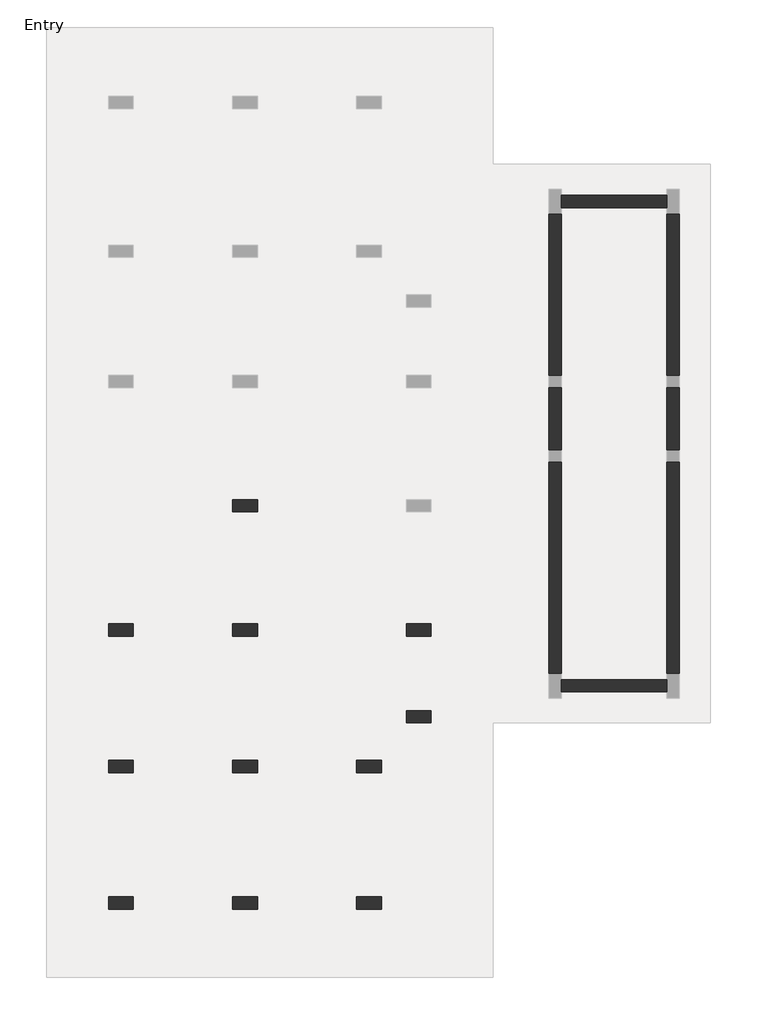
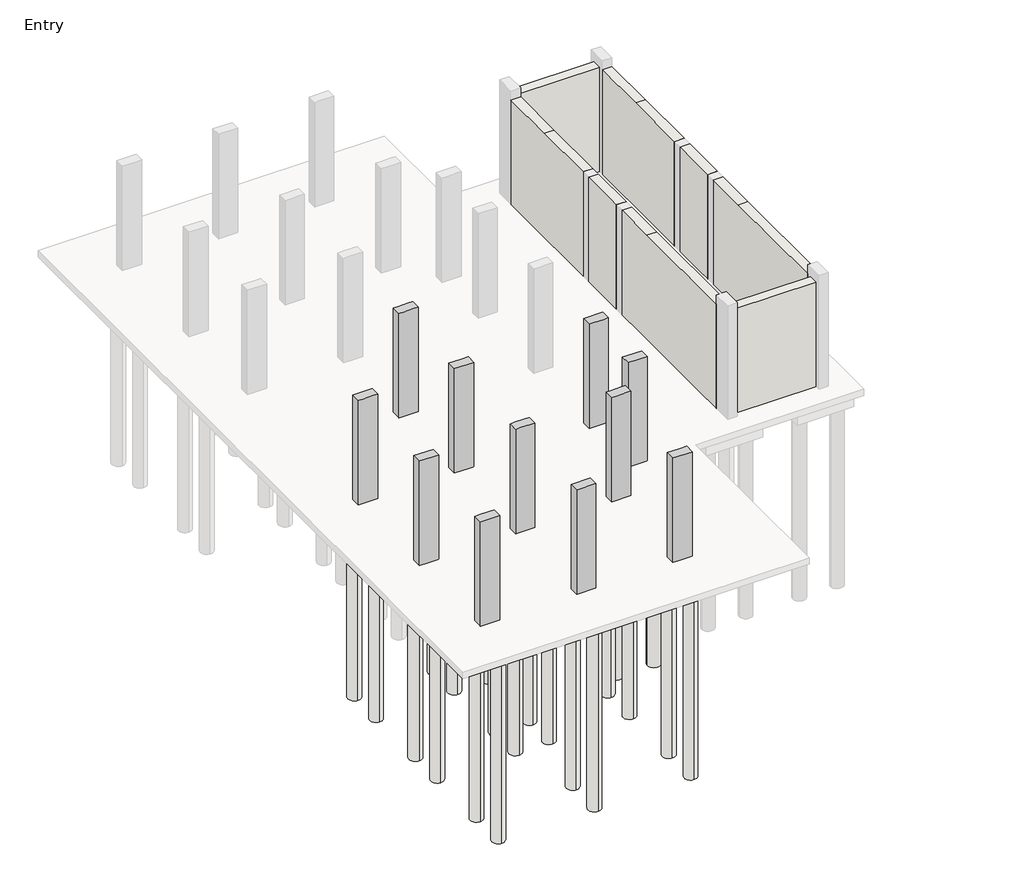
# One storey, part 1 of 3: 36 slabs, 11 columns, 8 walls.
"""IFC4 building model written with IfcOpenShell, lengths in millimetres."""

import ifcopenshell
import ifcopenshell.guid

model = None  # the IFC model being written
_history = None  # IfcOwnerHistory: only IFC2X3 demands one
_inside = {}  # id of a spatial element -> (the spatial element, [elements in it])
_under = {}  # id of a project, library or spatial element -> (it, [spatial elements below it])
_declared = {}  # id of a project -> (the project, [libraries it declares])
_typed = {}  # id of a type object -> (the type object, [elements of that type])
_made_of = {}  # id of a material, layer set ... -> (it, [elements and type objects made of it])


def new_model(schema):
    """Start an empty IFC model of exactly this schema.

    Asked for "IFC4X3", IfcOpenShell would pick the latest addendum, in which some entities
    have other attributes; the version numbers below select the first issue.
    IFC2X3 requires an IfcOwnerHistory on every rooted entity: one is made here for all.
    """
    global model, _history
    if schema == "IFC4X3":
        model = ifcopenshell.file(schema_version=(4, 3, 0, 0))
    else:
        model = ifcopenshell.file(schema=schema)
    _inside.clear()
    _under.clear()
    _declared.clear()
    _typed.clear()
    _made_of.clear()
    _history = None
    if model.schema == "IFC2X3":
        org = make("IfcOrganization", Name="unknown")
        user = make(
            "IfcPersonAndOrganization",
            ThePerson=make("IfcPerson", FamilyName="unknown"),
            TheOrganization=org,
        )
        app = make(
            "IfcApplication",
            ApplicationDeveloper=org,
            Version="unknown",
            ApplicationFullName="unknown",
            ApplicationIdentifier="unknown",
        )
        _history = make(
            "IfcOwnerHistory",
            OwningUser=user,
            OwningApplication=app,
            ChangeAction="ADDED",
            CreationDate=0,
        )
    return model


def make(cls, **values):
    """One entity of the class cls with the attributes given. An attribute that is None is left unset."""
    return model.create_entity(
        cls, **{name: value for name, value in values.items() if value is not None}
    )


def rooted(cls, **values):
    """An entity with a GlobalId (a new one), such as an element, a storey or a relation."""
    return make(cls, GlobalId=ifcopenshell.guid.new(), OwnerHistory=_history, **values)


def si_unit(unit_type, name, prefix=None):
    """IfcSIUnit, for example si_unit("LENGTHUNIT", "METRE", prefix="MILLI")."""
    return make("IfcSIUnit", UnitType=unit_type, Prefix=prefix, Name=name)


def assignment(units):
    """IfcUnitAssignment: the units of a project."""
    return None if units is None else make("IfcUnitAssignment", Units=units)


def point(xyz):
    """IfcCartesianPoint."""
    return None if xyz is None else make("IfcCartesianPoint", Coordinates=xyz)


def direction(xyz):
    """IfcDirection."""
    return None if xyz is None else make("IfcDirection", DirectionRatios=xyz)


def frame(location, z_axis=None, x_axis=None):
    """IfcAxis2Placement3D, a coordinate frame: its origin and axes. An axis left out is left unset."""
    return make(
        "IfcAxis2Placement3D",
        Location=point(location),
        Axis=direction(z_axis),
        RefDirection=direction(x_axis),
    )


def frame_2d(location, x_axis=None):
    """IfcAxis2Placement2D, a coordinate frame in the plane: its origin and x axis."""
    return make(
        "IfcAxis2Placement2D", Location=point(location), RefDirection=direction(x_axis)
    )


def origin():
    """The frame at (0, 0, 0) with its axes left unset."""
    return frame((0.0, 0.0, 0.0))


def origin_with_axes():
    """The frame at (0, 0, 0) with the z axis (0, 0, 1) and the x axis (1, 0, 0) written out."""
    return frame((0.0, 0.0, 0.0), z_axis=(0.0, 0.0, 1.0), x_axis=(1.0, 0.0, 0.0))


def place(relative_to, where):
    """IfcLocalPlacement: puts the frame where relative to a parent placement (None: the world)."""
    return make(
        "IfcLocalPlacement", PlacementRelTo=relative_to, RelativePlacement=where
    )


def context(
    kind, dimensions, precision=None, world=None, true_north=None, identifier=None
):
    """IfcGeometricRepresentationContext, for example the 3D "Model" context."""
    return make(
        "IfcGeometricRepresentationContext",
        ContextIdentifier=identifier,
        ContextType=kind,
        CoordinateSpaceDimension=dimensions,
        Precision=precision,
        WorldCoordinateSystem=world,
        TrueNorth=true_north,
    )


def project(units=None, contexts=None):
    """IfcProject with its units and contexts."""
    return rooted(
        "IfcProject",
        Name="project",
        RepresentationContexts=contexts,
        UnitsInContext=assignment(units),
    )


def spatial(cls, under=None, at=None, **own):
    """A site, building, storey or space (cls), placed at a placement, below another one or the project."""
    s = rooted(cls, ObjectPlacement=at, **own)
    if under is not None:
        _under.setdefault(under.id(), (under, []))[1].append(s)
    return s


def polyline(points):
    """IfcPolyline through the points."""
    return make("IfcPolyline", Points=[point(p) for p in points])


def circle_curve(where, radius):
    """IfcCircle in the frame where."""
    return make("IfcCircle", Position=where, Radius=radius)


def trimmed(basis, trim1, trim2, sense, master):
    """IfcTrimmedCurve: the piece of a basis curve between two trims."""
    return make(
        "IfcTrimmedCurve",
        BasisCurve=basis,
        Trim1=trim1,
        Trim2=trim2,
        SenseAgreement=sense,
        MasterRepresentation=master,
    )


def segment(curve, same_sense, transition):
    """IfcCompositeCurveSegment."""
    return make(
        "IfcCompositeCurveSegment",
        Transition=transition,
        SameSense=same_sense,
        ParentCurve=curve,
    )


def composite_curve(segments, self_intersect=None):
    """IfcCompositeCurve: segments joined end to end."""
    return make("IfcCompositeCurve", Segments=segments, SelfIntersect=self_intersect)


def outline(outer, holes=None, kind="AREA"):
    """IfcArbitraryClosedProfileDef: a profile drawn as a closed curve; with holes, ...WithVoids."""
    if holes is None:
        return make("IfcArbitraryClosedProfileDef", ProfileType=kind, OuterCurve=outer)
    return make(
        "IfcArbitraryProfileDefWithVoids",
        ProfileType=kind,
        OuterCurve=outer,
        InnerCurves=holes,
    )


def extrude(swept, where, along, depth):
    """IfcExtrudedAreaSolid: the profile swept, set in the frame where, extruded along a direction by depth."""
    return make(
        "IfcExtrudedAreaSolid",
        SweptArea=swept,
        Position=where,
        ExtrudedDirection=direction(along),
        Depth=depth,
    )


def faces_of(points, faces, orient=None, outer=None):
    """IfcFace entities. A face is a list of loops; a loop is a list of indices into points, from 0.

    orient and outer hold one flag for each loop. By default every Orientation is true, the
    first loop of a face is its IfcFaceOuterBound and the others are IfcFaceBound.
    """
    made = []
    for i, loops in enumerate(faces):
        bounds = []
        for j, loop in enumerate(loops):
            is_outer = j == 0 if outer is None else outer[i][j]
            bounds.append(
                make(
                    "IfcFaceOuterBound" if is_outer else "IfcFaceBound",
                    Bound=make("IfcPolyLoop", Polygon=[points[k] for k in loop]),
                    Orientation=True if orient is None else orient[i][j],
                )
            )
        made.append(make("IfcFace", Bounds=bounds))
    return made


def faceted_brep(points, faces, orient=None, outer=None, voids=None):
    """IfcFacetedBrep: a solid bounded by flat faces; with voids (closed shells), ...WithVoids."""
    shared = [point(p) for p in points]
    hull = make("IfcClosedShell", CfsFaces=faces_of(shared, faces, orient, outer))
    if voids is None:
        return make("IfcFacetedBrep", Outer=hull)
    return make(
        "IfcFacetedBrepWithVoids",
        Outer=hull,
        Voids=[
            make(cls, CfsFaces=faces_of(shared, fs, o, b)) for cls, fs, o, b in voids
        ],
    )


def shape(context_of_items, identifier, shape_type, items):
    """IfcShapeRepresentation: the items that make up one representation, for example the "Body"."""
    return make(
        "IfcShapeRepresentation",
        ContextOfItems=context_of_items,
        RepresentationIdentifier=identifier,
        RepresentationType=shape_type,
        Items=items,
    )


def made_of(thing, what):
    """Note that an element or type object is made of a material, layer set ...; save() writes the relation."""
    if what is not None:
        _made_of.setdefault(what.id(), (what, []))[1].append(thing)
    return thing


def element(
    cls,
    number,
    at=None,
    inside=None,
    cuts=None,
    type_object=None,
    material=None,
    context=None,
    identifier="Body",
    shape_type=None,
    held_by="IfcProductDefinitionShape",
    body=None,
    shapes=None,
    **own,
):
    """One element of the class cls, such as IfcWall. Its Tag is "e" and its number.

    at: its placement. inside: the storey or other place that contains it. cuts: it is an
    opening in that element (IfcRelVoidsElement). A single representation is given by context,
    identifier, shape_type and body (its items); several are given by shapes. held_by: the class
    of the entity that holds the representations. save() writes the other relations.
    """
    e = rooted(cls, Tag="e%d" % number, ObjectPlacement=at, **own)
    if body is not None:
        shapes = [shape(context, identifier, shape_type, body)]
    if shapes is not None:
        e.Representation = make(held_by, Representations=shapes)
    if inside is not None:
        _inside.setdefault(inside.id(), (inside, []))[1].append(e)
    if cuts is not None:
        rooted(
            "IfcRelVoidsElement", RelatingBuildingElement=cuts, RelatedOpeningElement=e
        )
    if type_object is not None:
        _typed.setdefault(type_object.id(), (type_object, []))[1].append(e)
    return made_of(e, material)


def aggregate(whole, parts):
    """IfcRelAggregates: a whole, such as a stair, and the parts it consists of."""
    return rooted("IfcRelAggregates", RelatingObject=whole, RelatedObjects=parts)


def save(model, path):
    """Write the relations noted so far, then the file.

    IfcRelAggregates (storeys below a building ...), IfcRelContainedInSpatialStructure (elements
    in a storey), IfcRelDefinesByType, IfcRelAssociatesMaterial and IfcRelDeclares: one each for
    every whole, place, type object, material and project.
    """
    for whole, parts in _under.values():
        aggregate(whole, parts)
    for where, things in _inside.values():
        rooted(
            "IfcRelContainedInSpatialStructure",
            RelatedElements=things,
            RelatingStructure=where,
        )
    for kind, things in _typed.values():
        rooted("IfcRelDefinesByType", RelatedObjects=things, RelatingType=kind)
    for what, things in _made_of.values():
        rooted("IfcRelAssociatesMaterial", RelatedObjects=things, RelatingMaterial=what)
    for by, libraries in _declared.values():
        rooted("IfcRelDeclares", RelatingContext=by, RelatedDefinitions=libraries)
    model.write(path)


model = new_model("IFC4")

# Units and contexts
model_context = context("Model", 3, world=origin())
ifc_project = project(units=[si_unit("LENGTHUNIT", "METRE", prefix="MILLI")], contexts=[model_context])

# Site, building, storey
site = spatial("IfcSite", under=ifc_project)
building = spatial("IfcBuilding", under=site)
storey = spatial("IfcBuildingStorey", under=building, Name="Entry", Elevation=0.0)

# Columns
placement = place(None, origin())
element("IfcColumn", 1, ObjectType="Concrete-Rectangular-Column : 12 x 24", at=placement, inside=storey, context=model_context, shape_type="Brep", body=[
    faceted_brep([(-12629.5554735, 4740.9867088, 0.0), (-12019.9554735, 4740.9867088, 0.0), (-12019.9554735, 4436.1867088, 0.0), (-12629.5554735, 4436.1867088, 0.0), (-12629.5554735, 4740.9867088, 3505.2), (-12477.1554735, 4740.9867088, 3505.2), (-12172.3554735, 4740.9867088, 3505.2), (-12019.9554735, 4740.9867088, 3505.2), (-12019.9554735, 4740.9867088, 2895.6), (-12019.9554735, 4436.1867088, 3505.2), (-12019.9554735, 4436.1867088, 2895.6), (-12172.3554735, 4436.1867088, 3505.2), (-12477.1554735, 4436.1867088, 3505.2), (-12629.5554735, 4436.1867088, 3505.2)], [[[0, 1, 2, 3]], [[4, 5, 6, 7, 8, 1, 0]], [[7, 9, 10, 2, 1, 8]], [[9, 11, 12, 13, 3, 2, 10]], [[13, 4, 0, 3]], [[4, 13, 12, 11, 9, 7, 6, 5]]]),
])
element("IfcColumn", 2, ObjectType="Concrete-Rectangular-Column : 12 x 24", at=placement, inside=storey, context=model_context, shape_type="Brep", body=[
    faceted_brep([(-12629.5554735, 1692.9867088, 0.0), (-12019.9554735, 1692.9867088, 0.0), (-12019.9554735, 1388.1867088, 0.0), (-12629.5554735, 1388.1867088, 0.0), (-12629.5554735, 1692.9867088, 3505.2), (-12477.1554735, 1692.9867088, 3505.2), (-12172.3554735, 1692.9867088, 3505.2), (-12019.9554735, 1692.9867088, 3505.2), (-12019.9554735, 1692.9867088, 2895.6), (-12629.5554735, 1692.9867088, 2895.6), (-12019.9554735, 1388.1867088, 3505.2), (-12019.9554735, 1388.1867088, 2895.6), (-12172.3554735, 1388.1867088, 3505.2), (-12477.1554735, 1388.1867088, 3505.2), (-12629.5554735, 1388.1867088, 3505.2), (-12629.5554735, 1388.1867088, 2895.6)], [[[0, 1, 2, 3]], [[4, 5, 6, 7, 8, 1, 0, 9]], [[7, 10, 11, 2, 1, 8]], [[10, 12, 13, 14, 15, 3, 2, 11]], [[14, 4, 9, 0, 3, 15]], [[4, 14, 13, 12, 10, 7, 6, 5]]]),
])
element("IfcColumn", 3, ObjectType="Concrete-Rectangular-Column : 12 x 24", at=placement, inside=storey, context=model_context, shape_type="Brep", body=[
    faceted_brep([(-12629.5554735, -1659.8132912, 0.0), (-12019.9554735, -1659.8132912, 0.0), (-12019.9554735, -1964.6132912, 0.0), (-12629.5554735, -1964.6132912, 0.0), (-12629.5554735, -1659.8132912, 3505.2), (-12477.1554735, -1659.8132912, 3505.2), (-12172.3554735, -1659.8132912, 3505.2), (-12019.9554735, -1659.8132912, 3505.2), (-12019.9554735, -1659.8132912, 2895.6), (-12629.5554735, -1659.8132912, 2895.6), (-12019.9554735, -1964.6132912, 3505.2), (-12019.9554735, -1964.6132912, 2895.6), (-12172.3554735, -1964.6132912, 3505.2), (-12477.1554735, -1964.6132912, 3505.2), (-12629.5554735, -1964.6132912, 3505.2), (-12629.5554735, -1964.6132912, 2895.6)], [[[0, 1, 2, 3]], [[4, 5, 6, 7, 8, 1, 0, 9]], [[7, 10, 11, 2, 1, 8]], [[10, 12, 13, 14, 15, 3, 2, 11]], [[14, 4, 9, 0, 3, 15]], [[4, 14, 13, 12, 10, 7, 6, 5]]]),
])
element("IfcColumn", 4, ObjectType="Concrete-Rectangular-Column : 12 x 24", at=placement, inside=storey, context=model_context, shape_type="Brep", body=[
    faceted_brep([(-12629.5554735, -5012.6132912, 0.0), (-12019.9554735, -5012.6132912, 0.0), (-12019.9554735, -5317.4132912, 0.0), (-12629.5554735, -5317.4132912, 0.0), (-12629.5554735, -5012.6132912, 3505.2), (-12477.1554735, -5012.6132912, 3505.2), (-12172.3554735, -5012.6132912, 3505.2), (-12019.9554735, -5012.6132912, 3505.2), (-12019.9554735, -5012.6132912, 2895.6), (-12629.5554735, -5012.6132912, 2895.6), (-12019.9554735, -5317.4132912, 3505.2), (-12019.9554735, -5317.4132912, 2895.6), (-12629.5554735, -5317.4132912, 3505.2), (-12629.5554735, -5317.4132912, 2895.6)], [[[0, 1, 2, 3]], [[4, 5, 6, 7, 8, 1, 0, 9]], [[7, 10, 11, 2, 1, 8]], [[10, 12, 13, 3, 2, 11]], [[12, 4, 9, 0, 3, 13]], [[4, 12, 10, 7, 6, 5]]]),
])
element("IfcColumn", 5, ObjectType="Concrete-Rectangular-Column : 12 x 24", at=placement, inside=storey, context=model_context, shape_type="Brep", body=[
    faceted_brep([(-15677.5554735, -1659.8132912, 0.0), (-15067.9554735, -1659.8132912, 0.0), (-15067.9554735, -1964.6132912, 0.0), (-15677.5554735, -1964.6132912, 0.0), (-15677.5554735, -1659.8132912, 3505.2), (-15525.1554735, -1659.8132912, 3505.2), (-15220.3554735, -1659.8132912, 3505.2), (-15067.9554735, -1659.8132912, 3505.2), (-15067.9554735, -1659.8132912, 2895.6), (-15067.9554735, -1964.6132912, 3505.2), (-15067.9554735, -1964.6132912, 2895.6), (-15220.3554735, -1964.6132912, 3505.2), (-15525.1554735, -1964.6132912, 3505.2), (-15677.5554735, -1964.6132912, 3505.2)], [[[0, 1, 2, 3]], [[4, 5, 6, 7, 8, 1, 0]], [[7, 9, 10, 2, 1, 8]], [[9, 11, 12, 13, 3, 2, 10]], [[13, 4, 0, 3]], [[4, 13, 12, 11, 9, 7, 6, 5]]]),
])
element("IfcColumn", 6, ObjectType="Concrete-Rectangular-Column : 12 x 24", at=placement, inside=storey, context=model_context, shape_type="Brep", body=[
    faceted_brep([(-15677.5554735, -5012.6132912, 0.0), (-15067.9554735, -5012.6132912, 0.0), (-15067.9554735, -5317.4132912, 0.0), (-15677.5554735, -5317.4132912, 0.0), (-15677.5554735, -5012.6132912, 3505.2), (-15525.1554735, -5012.6132912, 3505.2), (-15220.3554735, -5012.6132912, 3505.2), (-15067.9554735, -5012.6132912, 3505.2), (-15067.9554735, -5012.6132912, 2895.6), (-15067.9554735, -5317.4132912, 3505.2), (-15067.9554735, -5317.4132912, 2895.6), (-15677.5554735, -5317.4132912, 3505.2)], [[[0, 1, 2, 3]], [[4, 5, 6, 7, 8, 1, 0]], [[7, 9, 10, 2, 1, 8]], [[9, 11, 3, 2, 10]], [[11, 4, 0, 3]], [[4, 11, 9, 7, 6, 5]]]),
])
element("IfcColumn", 7, ObjectType="Concrete-Rectangular-Column : 12 x 24", at=placement, inside=storey, context=model_context, shape_type="Brep", body=[
    faceted_brep([(-15677.5554735, 1692.9867088, 0.0), (-15067.9554735, 1692.9867088, 0.0), (-15067.9554735, 1388.1867088, 0.0), (-15677.5554735, 1388.1867088, 0.0), (-15677.5554735, 1692.9867088, 3505.2), (-15067.9554735, 1692.9867088, 3505.2), (-15067.9554735, 1692.9867088, 2895.6), (-15067.9554735, 1388.1867088, 3505.2), (-15067.9554735, 1388.1867088, 2895.6), (-15220.3554735, 1388.1867088, 3505.2), (-15525.1554735, 1388.1867088, 3505.2), (-15677.5554735, 1388.1867088, 3505.2)], [[[0, 1, 2, 3]], [[4, 5, 6, 1, 0]], [[5, 7, 8, 2, 1, 6]], [[7, 9, 10, 11, 3, 2, 8]], [[11, 4, 0, 3]], [[4, 11, 10, 9, 7, 5]]]),
])
element("IfcColumn", 8, ObjectType="Concrete-Rectangular-Column : 12 x 24", at=placement, inside=storey, context=model_context, shape_type="Brep", body=[
    faceted_brep([(-8362.3554735, 1692.9867088, 0.0), (-7752.7554735, 1692.9867088, 0.0), (-7752.7554735, 1388.1867088, 0.0), (-8362.3554735, 1388.1867088, 0.0), (-8362.3554735, 1692.9867088, 3505.2), (-8209.9554735, 1692.9867088, 3505.2), (-7905.1554735, 1692.9867088, 3505.2), (-7752.7554735, 1692.9867088, 3505.2), (-8362.3554735, 1692.9867088, 2895.6), (-7752.7554735, 1388.1867088, 3505.2), (-7905.1554735, 1388.1867088, 3505.2), (-8209.9554735, 1388.1867088, 3505.2), (-8362.3554735, 1388.1867088, 3505.2), (-8362.3554735, 1388.1867088, 2895.6)], [[[0, 1, 2, 3]], [[4, 5, 6, 7, 1, 0, 8]], [[7, 9, 2, 1]], [[9, 10, 11, 12, 13, 3, 2]], [[12, 4, 8, 0, 3, 13]], [[4, 12, 11, 10, 9, 7, 6, 5]]]),
])
element("IfcColumn", 9, ObjectType="Concrete-Rectangular-Column : 12 x 24", at=placement, inside=storey, context=model_context, shape_type="Brep", body=[
    faceted_brep([(-9581.5554735, -1659.8132912, 0.0), (-8971.9554735, -1659.8132912, 0.0), (-8971.9554735, -1964.6132912, 0.0), (-9581.5554735, -1964.6132912, 0.0), (-9581.5554735, -1659.8132912, 3505.2), (-9429.1554735, -1659.8132912, 3505.2), (-9124.3554735, -1659.8132912, 3505.2), (-8971.9554735, -1659.8132912, 3505.2), (-9581.5554735, -1659.8132912, 2895.6), (-8971.9554735, -1964.6132912, 3505.2), (-9124.3554735, -1964.6132912, 3505.2), (-9429.1554735, -1964.6132912, 3505.2), (-9581.5554735, -1964.6132912, 3505.2), (-9581.5554735, -1964.6132912, 2895.6)], [[[0, 1, 2, 3]], [[4, 5, 6, 7, 1, 0, 8]], [[7, 9, 2, 1]], [[9, 10, 11, 12, 13, 3, 2]], [[12, 4, 8, 0, 3, 13]], [[4, 12, 11, 10, 9, 7, 6, 5]]]),
])
element("IfcColumn", 10, ObjectType="Concrete-Rectangular-Column : 12 x 24", at=placement, inside=storey, context=model_context, shape_type="Brep", body=[
    faceted_brep([(-9581.5554735, -5012.6132912, 0.0), (-8971.9554735, -5012.6132912, 0.0), (-8971.9554735, -5317.4132912, 0.0), (-9581.5554735, -5317.4132912, 0.0), (-9581.5554735, -5012.6132912, 3505.2), (-9429.1554735, -5012.6132912, 3505.2), (-9124.3554735, -5012.6132912, 3505.2), (-8971.9554735, -5012.6132912, 3505.2), (-9581.5554735, -5012.6132912, 2895.6), (-8971.9554735, -5317.4132912, 3505.2), (-9581.5554735, -5317.4132912, 3505.2), (-9581.5554735, -5317.4132912, 2895.6)], [[[0, 1, 2, 3]], [[4, 5, 6, 7, 1, 0, 8]], [[7, 9, 2, 1]], [[9, 10, 11, 3, 2]], [[10, 4, 8, 0, 3, 11]], [[4, 10, 9, 7, 6, 5]]]),
])
element("IfcColumn", 11, ObjectType="Concrete-Rectangular-Column : 12 x 24", at=placement, inside=storey, context=model_context, shape_type="Brep", body=[
    faceted_brep([(-8362.3554735, -440.6132912, 0.0), (-7752.7554735, -440.6132912, 0.0), (-7752.7554735, -745.4132912, 0.0), (-8362.3554735, -745.4132912, 0.0), (-8362.3554735, -440.6132912, 3505.2), (-8209.9554735, -440.6132912, 3505.2), (-7905.1554735, -440.6132912, 3505.2), (-7752.7554735, -440.6132912, 3505.2), (-8362.3554735, -440.6132912, 2895.6), (-7752.7554735, -745.4132912, 3505.2), (-8362.3554735, -745.4132912, 3505.2), (-8362.3554735, -745.4132912, 2895.6)], [[[0, 1, 2, 3]], [[4, 5, 6, 7, 1, 0, 8]], [[7, 9, 2, 1]], [[9, 10, 11, 3, 2]], [[10, 4, 8, 0, 3, 11]], [[4, 10, 9, 7, 6, 5]]]),
])

# Slabs
element("IfcSlab", 12, ObjectType="Pile Cap-2 Pile : 31\"x61\"x35\"", at=placement, inside=storey, context=model_context, shape_type="SweptSolid", body=[
    extrude(outline(polyline([(-15779.1554735, 2442.2867088), (-14966.3554735, 2442.2867088), (-14966.3554735, 638.8867088), (-15779.1554735, 638.8867088), (-15779.1554735, 2442.2867088)])), frame((0.0, 0.0, -889.0), z_axis=(0.0, 0.0, 1.0), x_axis=(1.0, 0.0, 0.0)), (0.0, 0.0, 1.0), 685.8),
])
element("IfcSlab", 13, ObjectType="Pile Cap-2 Pile : 31\"x61\"x35\"", at=placement, inside=storey, context=model_context, shape_type="SweptSolid", body=[
    extrude(outline(polyline([(-15779.1554735, -910.5132912), (-14966.3554735, -910.5132912), (-14966.3554735, -2713.9132912), (-15779.1554735, -2713.9132912), (-15779.1554735, -910.5132912)])), frame((0.0, 0.0, -889.0), z_axis=(0.0, 0.0, 1.0), x_axis=(1.0, 0.0, 0.0)), (0.0, 0.0, 1.0), 685.8),
])
element("IfcSlab", 14, ObjectType="Pile Cap-2 Pile : 31\"x61\"x35\"", at=placement, inside=storey, context=model_context, shape_type="SweptSolid", body=[
    extrude(outline(polyline([(-15779.1554735, -4263.3132912), (-14966.3554735, -4263.3132912), (-14966.3554735, -6066.7132912), (-15779.1554735, -6066.7132912), (-15779.1554735, -4263.3132912)])), frame((0.0, 0.0, -889.0), z_axis=(0.0, 0.0, 1.0), x_axis=(1.0, 0.0, 0.0)), (0.0, 0.0, 1.0), 685.8),
])
element("IfcSlab", 15, ObjectType="Pile Cap-2 Pile : 31\"x61\"x35\"", at=placement, inside=storey, context=model_context, shape_type="SweptSolid", body=[
    extrude(outline(polyline([(-12731.1554735, -4263.3132912), (-11918.3554735, -4263.3132912), (-11918.3554735, -6066.7132912), (-12731.1554735, -6066.7132912), (-12731.1554735, -4263.3132912)])), frame((0.0, 0.0, -889.0), z_axis=(0.0, 0.0, 1.0), x_axis=(1.0, 0.0, 0.0)), (0.0, 0.0, 1.0), 685.8),
])
element("IfcSlab", 16, ObjectType="Pile Cap-2 Pile : 31\"x61\"x35\"", at=placement, inside=storey, context=model_context, shape_type="SweptSolid", body=[
    extrude(outline(polyline([(-9683.1554735, -4263.3132912), (-8870.3554735, -4263.3132912), (-8870.3554735, -6066.7132912), (-9683.1554735, -6066.7132912), (-9683.1554735, -4263.3132912)])), frame((0.0, 0.0, -889.0), z_axis=(0.0, 0.0, 1.0), x_axis=(1.0, 0.0, 0.0)), (0.0, 0.0, 1.0), 685.8),
])
element("IfcSlab", 17, ObjectType="Pile Cap-2 Pile : 31\"x61\"x35\"", at=placement, inside=storey, context=model_context, shape_type="Brep", body=[
    faceted_brep([(-9683.1554735, -910.5132912, -889.0), (-8959.2554735, -910.5132912, -889.0), (-8870.3554735, -910.5132912, -889.0), (-8870.3554735, -999.4132912, -889.0), (-8870.3554735, -2713.9132912, -889.0), (-9683.1554735, -2713.9132912, -889.0), (-9683.1554735, -2713.9132912, -203.2), (-9683.1554735, -910.5132912, -203.2), (-8870.3554735, -2713.9132912, -203.2), (-8870.3554735, -910.5132912, -203.2), (-8870.3554735, -999.4132912, -203.2), (-8959.2554735, -910.5132912, -203.2)], [[[0, 1, 2, 3, 4, 5]], [[0, 5, 6, 7]], [[5, 4, 8, 6]], [[4, 3, 2, 9, 10, 8]], [[2, 1, 0, 7, 11, 9]], [[7, 6, 8, 10, 9, 11]]]),
])
element("IfcSlab", 18, ObjectType="Pile Cap-2 Pile : 31\"x61\"x35\"", at=placement, inside=storey, context=model_context, shape_type="SweptSolid", body=[
    extrude(outline(polyline([(-8463.9554735, 2442.2867088), (-7651.1554735, 2442.2867088), (-7651.1554735, 638.8867088), (-8463.9554735, 638.8867088), (-8463.9554735, 2442.2867088)])), frame((0.0, 0.0, -889.0), z_axis=(0.0, 0.0, 1.0), x_axis=(1.0, 0.0, 0.0)), (0.0, 0.0, 1.0), 685.8),
])
element("IfcSlab", 19, ObjectType="Pile Cap-2 Pile : 31\"x61\"x35\"", at=placement, inside=storey, context=model_context, shape_type="SweptSolid", body=[
    extrude(outline(polyline([(-7155.8554735, -186.6132912), (-7155.8554735, -999.4132912), (-8870.3554735, -999.4132912), (-8870.3554735, -910.5132912), (-8959.2554735, -910.5132912), (-8959.2554735, -186.6132912), (-7155.8554735, -186.6132912)])), frame((0.0, 0.0, -889.0), z_axis=(0.0, 0.0, 1.0), x_axis=(1.0, 0.0, 0.0)), (0.0, 0.0, 1.0), 685.8),
])
element("IfcSlab", 20, ObjectType="Pile Cap-4 Pile : 72\"x72\"x35\"", at=placement, inside=storey, context=model_context, shape_type="SweptSolid", body=[
    extrude(outline(polyline([(-13239.1554735, 5502.9867088), (-11410.3554735, 5502.9867088), (-11410.3554735, 3674.1867088), (-13239.1554735, 3674.1867088), (-13239.1554735, 5502.9867088)])), frame((0.0, 0.0, -889.0), z_axis=(0.0, 0.0, 1.0), x_axis=(1.0, 0.0, 0.0)), (0.0, 0.0, 1.0), 685.8),
])
element("IfcSlab", 21, ObjectType="Pile Cap-4 Pile : 72\"x72\"x35\"", at=placement, inside=storey, context=model_context, shape_type="SweptSolid", body=[
    extrude(outline(polyline([(-13239.1554735, 2454.9867088), (-11410.3554735, 2454.9867088), (-11410.3554735, 626.1867088), (-13239.1554735, 626.1867088), (-13239.1554735, 2454.9867088)])), frame((0.0, 0.0, -889.0), z_axis=(0.0, 0.0, 1.0), x_axis=(1.0, 0.0, 0.0)), (0.0, 0.0, 1.0), 685.8),
])
element("IfcSlab", 22, ObjectType="Pile Cap-4 Pile : 72\"x72\"x35\"", at=placement, inside=storey, context=model_context, shape_type="SweptSolid", body=[
    extrude(outline(polyline([(-13239.1554735, -897.8132912), (-11410.3554735, -897.8132912), (-11410.3554735, -2726.6132912), (-13239.1554735, -2726.6132912), (-13239.1554735, -897.8132912)])), frame((0.0, 0.0, -889.0), z_axis=(0.0, 0.0, 1.0), x_axis=(1.0, 0.0, 0.0)), (0.0, 0.0, 1.0), 685.8),
])
element("IfcSlab", 23, ObjectType="Pile-Steel Pipe : 16\" Diameter", at=placement, inside=storey, context=model_context, shape_type="SweptSolid", body=[
    extrude(outline(composite_curve([segment(trimmed(circle_curve(frame_2d((-12858.1554735, 1007.1867088)), 203.2), [point((-12858.1554735, 803.9867088))], [point((-12858.1554735, 1210.3867088))], False, "CARTESIAN"), True, "CONTINUOUS"), segment(trimmed(circle_curve(frame_2d((-12858.1554735, 1007.1867088)), 203.2), [point((-12858.1554735, 1210.3867088))], [point((-12858.1554735, 803.9867088))], False, "CARTESIAN"), True, "CONTINUOUS")], self_intersect=False)), frame((0.0, 0.0, -6985.0), z_axis=(0.0, 0.0, 1.0), x_axis=(1.0, 0.0, 0.0)), (0.0, 0.0, 1.0), 6096.0),
])
element("IfcSlab", 24, ObjectType="Pile-Steel Pipe : 16\" Diameter", at=placement, inside=storey, context=model_context, shape_type="SweptSolid", body=[
    extrude(outline(composite_curve([segment(trimmed(circle_curve(frame_2d((-11791.3554735, 1007.1867088)), 203.2), [point((-11791.3554735, 803.9867088))], [point((-11791.3554735, 1210.3867088))], False, "CARTESIAN"), True, "CONTINUOUS"), segment(trimmed(circle_curve(frame_2d((-11791.3554735, 1007.1867088)), 203.2), [point((-11791.3554735, 1210.3867088))], [point((-11791.3554735, 803.9867088))], False, "CARTESIAN"), True, "CONTINUOUS")], self_intersect=False)), frame((0.0, 0.0, -6985.0), z_axis=(0.0, 0.0, 1.0), x_axis=(1.0, 0.0, 0.0)), (0.0, 0.0, 1.0), 6096.0),
])
element("IfcSlab", 25, ObjectType="Pile-Steel Pipe : 16\" Diameter", at=placement, inside=storey, context=model_context, shape_type="SweptSolid", body=[
    extrude(outline(composite_curve([segment(trimmed(circle_curve(frame_2d((-11791.3554735, 2073.9867088)), 203.2), [point((-11791.3554735, 1870.7867088))], [point((-11791.3554735, 2277.1867088))], False, "CARTESIAN"), True, "CONTINUOUS"), segment(trimmed(circle_curve(frame_2d((-11791.3554735, 2073.9867088)), 203.2), [point((-11791.3554735, 2277.1867088))], [point((-11791.3554735, 1870.7867088))], False, "CARTESIAN"), True, "CONTINUOUS")], self_intersect=False)), frame((0.0, 0.0, -6985.0), z_axis=(0.0, 0.0, 1.0), x_axis=(1.0, 0.0, 0.0)), (0.0, 0.0, 1.0), 6096.0),
])
element("IfcSlab", 26, ObjectType="Pile-Steel Pipe : 16\" Diameter", at=placement, inside=storey, context=model_context, shape_type="SweptSolid", body=[
    extrude(outline(composite_curve([segment(trimmed(circle_curve(frame_2d((-12858.1554735, 2073.9867088)), 203.2), [point((-12858.1554735, 1870.7867088))], [point((-12858.1554735, 2277.1867088))], False, "CARTESIAN"), True, "CONTINUOUS"), segment(trimmed(circle_curve(frame_2d((-12858.1554735, 2073.9867088)), 203.2), [point((-12858.1554735, 2277.1867088))], [point((-12858.1554735, 1870.7867088))], False, "CARTESIAN"), True, "CONTINUOUS")], self_intersect=False)), frame((0.0, 0.0, -6985.0), z_axis=(0.0, 0.0, 1.0), x_axis=(1.0, 0.0, 0.0)), (0.0, 0.0, 1.0), 6096.0),
])
element("IfcSlab", 27, ObjectType="Pile-Steel Pipe : 16\" Diameter", at=placement, inside=storey, context=model_context, shape_type="SweptSolid", body=[
    extrude(outline(composite_curve([segment(trimmed(circle_curve(frame_2d((-12858.1554735, -2345.6132912)), 203.2), [point((-12858.1554735, -2548.8132912))], [point((-12858.1554735, -2142.4132912))], False, "CARTESIAN"), True, "CONTINUOUS"), segment(trimmed(circle_curve(frame_2d((-12858.1554735, -2345.6132912)), 203.2), [point((-12858.1554735, -2142.4132912))], [point((-12858.1554735, -2548.8132912))], False, "CARTESIAN"), True, "CONTINUOUS")], self_intersect=False)), frame((0.0, 0.0, -6985.0), z_axis=(0.0, 0.0, 1.0), x_axis=(1.0, 0.0, 0.0)), (0.0, 0.0, 1.0), 6096.0),
])
element("IfcSlab", 28, ObjectType="Pile-Steel Pipe : 16\" Diameter", at=placement, inside=storey, context=model_context, shape_type="SweptSolid", body=[
    extrude(outline(composite_curve([segment(trimmed(circle_curve(frame_2d((-11791.3554735, -2345.6132912)), 203.2), [point((-11791.3554735, -2548.8132912))], [point((-11791.3554735, -2142.4132912))], False, "CARTESIAN"), True, "CONTINUOUS"), segment(trimmed(circle_curve(frame_2d((-11791.3554735, -2345.6132912)), 203.2), [point((-11791.3554735, -2142.4132912))], [point((-11791.3554735, -2548.8132912))], False, "CARTESIAN"), True, "CONTINUOUS")], self_intersect=False)), frame((0.0, 0.0, -6985.0), z_axis=(0.0, 0.0, 1.0), x_axis=(1.0, 0.0, 0.0)), (0.0, 0.0, 1.0), 6096.0),
])
element("IfcSlab", 29, ObjectType="Pile-Steel Pipe : 16\" Diameter", at=placement, inside=storey, context=model_context, shape_type="SweptSolid", body=[
    extrude(outline(composite_curve([segment(trimmed(circle_curve(frame_2d((-11791.3554735, -1278.8132912)), 203.2), [point((-11791.3554735, -1482.0132912))], [point((-11791.3554735, -1075.6132912))], False, "CARTESIAN"), True, "CONTINUOUS"), segment(trimmed(circle_curve(frame_2d((-11791.3554735, -1278.8132912)), 203.2), [point((-11791.3554735, -1075.6132912))], [point((-11791.3554735, -1482.0132912))], False, "CARTESIAN"), True, "CONTINUOUS")], self_intersect=False)), frame((0.0, 0.0, -6985.0), z_axis=(0.0, 0.0, 1.0), x_axis=(1.0, 0.0, 0.0)), (0.0, 0.0, 1.0), 6096.0),
])
element("IfcSlab", 30, ObjectType="Pile-Steel Pipe : 16\" Diameter", at=placement, inside=storey, context=model_context, shape_type="SweptSolid", body=[
    extrude(outline(composite_curve([segment(trimmed(circle_curve(frame_2d((-12858.1554735, -1278.8132912)), 203.2), [point((-12858.1554735, -1482.0132912))], [point((-12858.1554735, -1075.6132912))], False, "CARTESIAN"), True, "CONTINUOUS"), segment(trimmed(circle_curve(frame_2d((-12858.1554735, -1278.8132912)), 203.2), [point((-12858.1554735, -1075.6132912))], [point((-12858.1554735, -1482.0132912))], False, "CARTESIAN"), True, "CONTINUOUS")], self_intersect=False)), frame((0.0, 0.0, -6985.0), z_axis=(0.0, 0.0, 1.0), x_axis=(1.0, 0.0, 0.0)), (0.0, 0.0, 1.0), 6096.0),
])
element("IfcSlab", 31, ObjectType="Pile-Steel Pipe : 16\" Diameter", at=placement, inside=storey, context=model_context, shape_type="SweptSolid", body=[
    extrude(outline(composite_curve([segment(trimmed(circle_curve(frame_2d((-15372.7554735, 2137.4867088)), 203.2), [point((-15372.7554735, 1934.2867088))], [point((-15372.7554735, 2340.6867088))], False, "CARTESIAN"), True, "CONTINUOUS"), segment(trimmed(circle_curve(frame_2d((-15372.7554735, 2137.4867088)), 203.2), [point((-15372.7554735, 2340.6867088))], [point((-15372.7554735, 1934.2867088))], False, "CARTESIAN"), True, "CONTINUOUS")], self_intersect=False)), frame((0.0, 0.0, -6985.0), z_axis=(0.0, 0.0, 1.0), x_axis=(1.0, 0.0, 0.0)), (0.0, 0.0, 1.0), 6096.0),
])
element("IfcSlab", 32, ObjectType="Pile-Steel Pipe : 16\" Diameter", at=placement, inside=storey, context=model_context, shape_type="SweptSolid", body=[
    extrude(outline(composite_curve([segment(trimmed(circle_curve(frame_2d((-15372.7554735, 943.6867088)), 203.2), [point((-15372.7554735, 740.4867088))], [point((-15372.7554735, 1146.8867088))], False, "CARTESIAN"), True, "CONTINUOUS"), segment(trimmed(circle_curve(frame_2d((-15372.7554735, 943.6867088)), 203.2), [point((-15372.7554735, 1146.8867088))], [point((-15372.7554735, 740.4867088))], False, "CARTESIAN"), True, "CONTINUOUS")], self_intersect=False)), frame((0.0, 0.0, -6985.0), z_axis=(0.0, 0.0, 1.0), x_axis=(1.0, 0.0, 0.0)), (0.0, 0.0, 1.0), 6096.0),
])
element("IfcSlab", 33, ObjectType="Pile-Steel Pipe : 16\" Diameter", at=placement, inside=storey, context=model_context, shape_type="SweptSolid", body=[
    extrude(outline(composite_curve([segment(trimmed(circle_curve(frame_2d((-15372.7554735, -1215.3132912)), 203.2), [point((-15372.7554735, -1418.5132912))], [point((-15372.7554735, -1012.1132912))], False, "CARTESIAN"), True, "CONTINUOUS"), segment(trimmed(circle_curve(frame_2d((-15372.7554735, -1215.3132912)), 203.2), [point((-15372.7554735, -1012.1132912))], [point((-15372.7554735, -1418.5132912))], False, "CARTESIAN"), True, "CONTINUOUS")], self_intersect=False)), frame((0.0, 0.0, -6985.0), z_axis=(0.0, 0.0, 1.0), x_axis=(1.0, 0.0, 0.0)), (0.0, 0.0, 1.0), 6096.0),
])
element("IfcSlab", 34, ObjectType="Pile-Steel Pipe : 16\" Diameter", at=placement, inside=storey, context=model_context, shape_type="SweptSolid", body=[
    extrude(outline(composite_curve([segment(trimmed(circle_curve(frame_2d((-15372.7554735, -2409.1132912)), 203.2), [point((-15372.7554735, -2612.3132912))], [point((-15372.7554735, -2205.9132912))], False, "CARTESIAN"), True, "CONTINUOUS"), segment(trimmed(circle_curve(frame_2d((-15372.7554735, -2409.1132912)), 203.2), [point((-15372.7554735, -2205.9132912))], [point((-15372.7554735, -2612.3132912))], False, "CARTESIAN"), True, "CONTINUOUS")], self_intersect=False)), frame((0.0, 0.0, -6985.0), z_axis=(0.0, 0.0, 1.0), x_axis=(1.0, 0.0, 0.0)), (0.0, 0.0, 1.0), 6096.0),
])
element("IfcSlab", 35, ObjectType="Pile-Steel Pipe : 16\" Diameter", at=placement, inside=storey, context=model_context, shape_type="SweptSolid", body=[
    extrude(outline(composite_curve([segment(trimmed(circle_curve(frame_2d((-15372.7554735, -4568.1132912)), 203.2), [point((-15372.7554735, -4771.3132912))], [point((-15372.7554735, -4364.9132912))], False, "CARTESIAN"), True, "CONTINUOUS"), segment(trimmed(circle_curve(frame_2d((-15372.7554735, -4568.1132912)), 203.2), [point((-15372.7554735, -4364.9132912))], [point((-15372.7554735, -4771.3132912))], False, "CARTESIAN"), True, "CONTINUOUS")], self_intersect=False)), frame((0.0, 0.0, -6985.0), z_axis=(0.0, 0.0, 1.0), x_axis=(1.0, 0.0, 0.0)), (0.0, 0.0, 1.0), 6096.0),
])
element("IfcSlab", 36, ObjectType="Pile-Steel Pipe : 16\" Diameter", at=placement, inside=storey, context=model_context, shape_type="SweptSolid", body=[
    extrude(outline(composite_curve([segment(trimmed(circle_curve(frame_2d((-15372.7554735, -5761.9132912)), 203.2), [point((-15372.7554735, -5965.1132912))], [point((-15372.7554735, -5558.7132912))], False, "CARTESIAN"), True, "CONTINUOUS"), segment(trimmed(circle_curve(frame_2d((-15372.7554735, -5761.9132912)), 203.2), [point((-15372.7554735, -5558.7132912))], [point((-15372.7554735, -5965.1132912))], False, "CARTESIAN"), True, "CONTINUOUS")], self_intersect=False)), frame((0.0, 0.0, -6985.0), z_axis=(0.0, 0.0, 1.0), x_axis=(1.0, 0.0, 0.0)), (0.0, 0.0, 1.0), 6096.0),
])
element("IfcSlab", 37, ObjectType="Pile-Steel Pipe : 16\" Diameter", at=placement, inside=storey, context=model_context, shape_type="SweptSolid", body=[
    extrude(outline(composite_curve([segment(trimmed(circle_curve(frame_2d((-12324.7554735, -4568.1132912)), 203.2), [point((-12324.7554735, -4771.3132912))], [point((-12324.7554735, -4364.9132912))], False, "CARTESIAN"), True, "CONTINUOUS"), segment(trimmed(circle_curve(frame_2d((-12324.7554735, -4568.1132912)), 203.2), [point((-12324.7554735, -4364.9132912))], [point((-12324.7554735, -4771.3132912))], False, "CARTESIAN"), True, "CONTINUOUS")], self_intersect=False)), frame((0.0, 0.0, -6985.0), z_axis=(0.0, 0.0, 1.0), x_axis=(1.0, 0.0, 0.0)), (0.0, 0.0, 1.0), 6096.0),
])
element("IfcSlab", 38, ObjectType="Pile-Steel Pipe : 16\" Diameter", at=placement, inside=storey, context=model_context, shape_type="SweptSolid", body=[
    extrude(outline(composite_curve([segment(trimmed(circle_curve(frame_2d((-12324.7554735, -5761.9132912)), 203.2), [point((-12324.7554735, -5965.1132912))], [point((-12324.7554735, -5558.7132912))], False, "CARTESIAN"), True, "CONTINUOUS"), segment(trimmed(circle_curve(frame_2d((-12324.7554735, -5761.9132912)), 203.2), [point((-12324.7554735, -5558.7132912))], [point((-12324.7554735, -5965.1132912))], False, "CARTESIAN"), True, "CONTINUOUS")], self_intersect=False)), frame((0.0, 0.0, -6985.0), z_axis=(0.0, 0.0, 1.0), x_axis=(1.0, 0.0, 0.0)), (0.0, 0.0, 1.0), 6096.0),
])
element("IfcSlab", 39, ObjectType="Pile-Steel Pipe : 16\" Diameter", at=placement, inside=storey, context=model_context, shape_type="SweptSolid", body=[
    extrude(outline(composite_curve([segment(trimmed(circle_curve(frame_2d((-9276.7554735, -4568.1132912)), 203.2), [point((-9276.7554735, -4771.3132912))], [point((-9276.7554735, -4364.9132912))], False, "CARTESIAN"), True, "CONTINUOUS"), segment(trimmed(circle_curve(frame_2d((-9276.7554735, -4568.1132912)), 203.2), [point((-9276.7554735, -4364.9132912))], [point((-9276.7554735, -4771.3132912))], False, "CARTESIAN"), True, "CONTINUOUS")], self_intersect=False)), frame((0.0, 0.0, -6985.0), z_axis=(0.0, 0.0, 1.0), x_axis=(1.0, 0.0, 0.0)), (0.0, 0.0, 1.0), 6096.0),
])
element("IfcSlab", 40, ObjectType="Pile-Steel Pipe : 16\" Diameter", at=placement, inside=storey, context=model_context, shape_type="SweptSolid", body=[
    extrude(outline(composite_curve([segment(trimmed(circle_curve(frame_2d((-9276.7554735, -5761.9132912)), 203.2), [point((-9276.7554735, -5965.1132912))], [point((-9276.7554735, -5558.7132912))], False, "CARTESIAN"), True, "CONTINUOUS"), segment(trimmed(circle_curve(frame_2d((-9276.7554735, -5761.9132912)), 203.2), [point((-9276.7554735, -5558.7132912))], [point((-9276.7554735, -5965.1132912))], False, "CARTESIAN"), True, "CONTINUOUS")], self_intersect=False)), frame((0.0, 0.0, -6985.0), z_axis=(0.0, 0.0, 1.0), x_axis=(1.0, 0.0, 0.0)), (0.0, 0.0, 1.0), 6096.0),
])
element("IfcSlab", 41, ObjectType="Pile-Steel Pipe : 16\" Diameter", at=placement, inside=storey, context=model_context, shape_type="SweptSolid", body=[
    extrude(outline(composite_curve([segment(trimmed(circle_curve(frame_2d((-9276.7554735, -1215.3132912)), 203.2), [point((-9276.7554735, -1418.5132912))], [point((-9276.7554735, -1012.1132912))], False, "CARTESIAN"), True, "CONTINUOUS"), segment(trimmed(circle_curve(frame_2d((-9276.7554735, -1215.3132912)), 203.2), [point((-9276.7554735, -1012.1132912))], [point((-9276.7554735, -1418.5132912))], False, "CARTESIAN"), True, "CONTINUOUS")], self_intersect=False)), frame((0.0, 0.0, -6985.0), z_axis=(0.0, 0.0, 1.0), x_axis=(1.0, 0.0, 0.0)), (0.0, 0.0, 1.0), 6096.0),
])
element("IfcSlab", 42, ObjectType="Pile-Steel Pipe : 16\" Diameter", at=placement, inside=storey, context=model_context, shape_type="SweptSolid", body=[
    extrude(outline(composite_curve([segment(trimmed(circle_curve(frame_2d((-9276.7554735, -2409.1132912)), 203.2), [point((-9276.7554735, -2612.3132912))], [point((-9276.7554735, -2205.9132912))], False, "CARTESIAN"), True, "CONTINUOUS"), segment(trimmed(circle_curve(frame_2d((-9276.7554735, -2409.1132912)), 203.2), [point((-9276.7554735, -2205.9132912))], [point((-9276.7554735, -2612.3132912))], False, "CARTESIAN"), True, "CONTINUOUS")], self_intersect=False)), frame((0.0, 0.0, -6985.0), z_axis=(0.0, 0.0, 1.0), x_axis=(1.0, 0.0, 0.0)), (0.0, 0.0, 1.0), 6096.0),
])
element("IfcSlab", 43, ObjectType="Pile-Steel Pipe : 16\" Diameter", at=placement, inside=storey, context=model_context, shape_type="SweptSolid", body=[
    extrude(outline(composite_curve([segment(trimmed(circle_curve(frame_2d((-8057.5554735, 2137.4867088)), 203.2), [point((-8057.5554735, 1934.2867088))], [point((-8057.5554735, 2340.6867088))], False, "CARTESIAN"), True, "CONTINUOUS"), segment(trimmed(circle_curve(frame_2d((-8057.5554735, 2137.4867088)), 203.2), [point((-8057.5554735, 2340.6867088))], [point((-8057.5554735, 1934.2867088))], False, "CARTESIAN"), True, "CONTINUOUS")], self_intersect=False)), frame((0.0, 0.0, -6985.0), z_axis=(0.0, 0.0, 1.0), x_axis=(1.0, 0.0, 0.0)), (0.0, 0.0, 1.0), 6096.0),
])
element("IfcSlab", 44, ObjectType="Pile-Steel Pipe : 16\" Diameter", at=placement, inside=storey, context=model_context, shape_type="SweptSolid", body=[
    extrude(outline(composite_curve([segment(trimmed(circle_curve(frame_2d((-8057.5554735, 943.6867088)), 203.2), [point((-8057.5554735, 740.4867088))], [point((-8057.5554735, 1146.8867088))], False, "CARTESIAN"), True, "CONTINUOUS"), segment(trimmed(circle_curve(frame_2d((-8057.5554735, 943.6867088)), 203.2), [point((-8057.5554735, 1146.8867088))], [point((-8057.5554735, 740.4867088))], False, "CARTESIAN"), True, "CONTINUOUS")], self_intersect=False)), frame((0.0, 0.0, -6985.0), z_axis=(0.0, 0.0, 1.0), x_axis=(1.0, 0.0, 0.0)), (0.0, 0.0, 1.0), 6096.0),
])
element("IfcSlab", 45, ObjectType="Pile-Steel Pipe : 16\" Diameter", at=placement, inside=storey, context=model_context, shape_type="SweptSolid", body=[
    extrude(outline(composite_curve([segment(trimmed(circle_curve(frame_2d((-8057.5554735, 3991.6867088)), 203.2), [point((-8057.5554735, 3788.4867088))], [point((-8057.5554735, 4194.8867088))], False, "CARTESIAN"), True, "CONTINUOUS"), segment(trimmed(circle_curve(frame_2d((-8057.5554735, 3991.6867088)), 203.2), [point((-8057.5554735, 4194.8867088))], [point((-8057.5554735, 3788.4867088))], False, "CARTESIAN"), True, "CONTINUOUS")], self_intersect=False)), frame((0.0, 0.0, -6985.0), z_axis=(0.0, 0.0, 1.0), x_axis=(1.0, 0.0, 0.0)), (0.0, 0.0, 1.0), 6096.0),
])
element("IfcSlab", 46, ObjectType="Pile-Steel Pipe : 16\" Diameter", at=placement, inside=storey, context=model_context, shape_type="SweptSolid", body=[
    extrude(outline(composite_curve([segment(trimmed(circle_curve(frame_2d((-7460.6554735, -593.0132912)), 203.2), [point((-7663.8554735, -593.0132912))], [point((-7257.4554735, -593.0132912))], False, "CARTESIAN"), True, "CONTINUOUS"), segment(trimmed(circle_curve(frame_2d((-7460.6554735, -593.0132912)), 203.2), [point((-7257.4554735, -593.0132912))], [point((-7663.8554735, -593.0132912))], False, "CARTESIAN"), True, "CONTINUOUS")], self_intersect=False)), frame((0.0, 0.0, -6985.0), z_axis=(0.0, 0.0, 1.0), x_axis=(1.0, 0.0, 0.0)), (0.0, 0.0, 1.0), 6096.0),
])
element("IfcSlab", 47, ObjectType="Pile-Steel Pipe : 16\" Diameter", at=placement, inside=storey, context=model_context, shape_type="SweptSolid", body=[
    extrude(outline(composite_curve([segment(trimmed(circle_curve(frame_2d((-8654.4554735, -593.0132912)), 203.2), [point((-8857.6554735, -593.0132912))], [point((-8451.2554735, -593.0132912))], False, "CARTESIAN"), True, "CONTINUOUS"), segment(trimmed(circle_curve(frame_2d((-8654.4554735, -593.0132912)), 203.2), [point((-8451.2554735, -593.0132912))], [point((-8857.6554735, -593.0132912))], False, "CARTESIAN"), True, "CONTINUOUS")], self_intersect=False)), frame((0.0, 0.0, -6985.0), z_axis=(0.0, 0.0, 1.0), x_axis=(1.0, 0.0, 0.0)), (0.0, 0.0, 1.0), 6096.0),
])

# Walls
element("IfcWall", 48, ObjectType="Core-Shaft - 12\" Concrete", at=placement, inside=storey, context=model_context, shape_type="SweptSolid", body=[
    extrude(outline(polyline([(-1961.5554735, 11903.7867088), (-4552.3554735, 11903.7867088), (-4552.3554735, 12208.5867088), (-1961.5554735, 12208.5867088), (-1961.5554735, 11903.7867088)])), origin_with_axes(), (0.0, 0.0, 1.0), 3505.2),
])
element("IfcWall", 49, ObjectType="Core-Shaft - 12\" Concrete", at=placement, inside=storey, context=model_context, shape_type="SweptSolid", body=[
    extrude(outline(polyline([(11751.3867088, 0.0), (7788.9867088, 0.0), (7788.9867088, 3505.2), (9922.5867088, 3505.2), (11751.3867088, 3505.2), (11751.3867088, 0.0)])), frame((-1961.5554735, 0.0, 0.0), z_axis=(1.0, 0.0, 0.0), x_axis=(0.0, 1.0, 0.0)), (0.0, 0.0, 1.0), 304.8),
])
element("IfcWall", 50, ObjectType="Core-Shaft - 12\" Concrete", at=placement, inside=storey, context=model_context, shape_type="SweptSolid", body=[
    extrude(outline(polyline([(-1961.5554735, 5960.1867088), (-1961.5554735, 7484.1867088), (-1656.7554735, 7484.1867088), (-1656.7554735, 5960.1867088), (-1961.5554735, 5960.1867088)])), origin_with_axes(), (0.0, 0.0, 1.0), 3505.2),
])
element("IfcWall", 51, ObjectType="Core-Shaft - 12\" Concrete", at=placement, inside=storey, context=model_context, shape_type="SweptSolid", body=[
    extrude(outline(polyline([(7788.9867088, 0.0), (7788.9867088, 3505.2), (9922.5867088, 3505.2), (11751.3867088, 3505.2), (11751.3867088, 0.0), (7788.9867088, 0.0)])), frame((-4857.1554735, 0.0, 0.0), z_axis=(1.0, 0.0, 0.0), x_axis=(0.0, 1.0, 0.0)), (0.0, 0.0, 1.0), 304.8),
])
element("IfcWall", 52, ObjectType="Core-Shaft - 12\" Concrete", at=placement, inside=storey, context=model_context, shape_type="SweptSolid", body=[
    extrude(outline(polyline([(5655.3867088, 0.0), (473.7867088, 0.0), (473.7867088, 3505.2), (4283.7867088, 3505.2), (5655.3867088, 3505.2), (5655.3867088, 0.0)])), frame((-4857.1554735, 0.0, 0.0), z_axis=(1.0, 0.0, 0.0), x_axis=(0.0, 1.0, 0.0)), (0.0, 0.0, 1.0), 304.8),
])
element("IfcWall", 53, ObjectType="Core-Shaft - 12\" Concrete", at=placement, inside=storey, context=model_context, shape_type="SweptSolid", body=[
    extrude(outline(polyline([(-1961.5554735, 16.5867088), (-4552.3554735, 16.5867088), (-4552.3554735, 321.3867088), (-1961.5554735, 321.3867088), (-1961.5554735, 16.5867088)])), origin_with_axes(), (0.0, 0.0, 1.0), 3505.2),
])
element("IfcWall", 54, ObjectType="Core-Shaft - 12\" Concrete", at=placement, inside=storey, context=model_context, shape_type="SweptSolid", body=[
    extrude(outline(polyline([(473.7867088, 0.0), (473.7867088, 3505.2), (4283.7867088, 3505.2), (5655.3867088, 3505.2), (5655.3867088, 0.0), (473.7867088, 0.0)])), frame((-1961.5554735, 0.0, 0.0), z_axis=(1.0, 0.0, 0.0), x_axis=(0.0, 1.0, 0.0)), (0.0, 0.0, 1.0), 304.8),
])
element("IfcWall", 55, ObjectType="Core-Shaft - 12\" Concrete", at=placement, inside=storey, context=model_context, shape_type="SweptSolid", body=[
    extrude(outline(polyline([(-4857.1554735, 5960.1867088), (-4857.1554735, 7484.1867088), (-4552.3554735, 7484.1867088), (-4552.3554735, 5960.1867088), (-4857.1554735, 5960.1867088)])), origin_with_axes(), (0.0, 0.0, 1.0), 3505.2),
])

save(model, "model.ifc")
